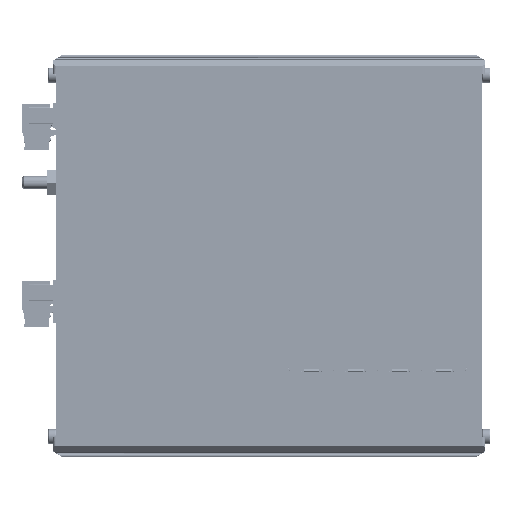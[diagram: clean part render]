
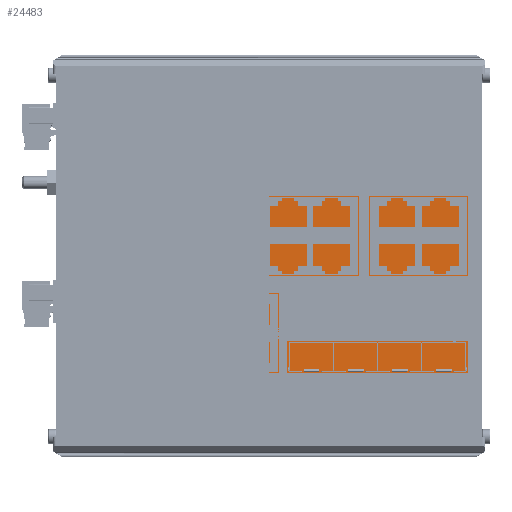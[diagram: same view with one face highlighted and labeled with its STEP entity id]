
A CAD part, top view. The second image highlights one B-rep face of the part: STEP entity #24483.
In plain terms, the highlighted planar face has unit normal (0, 0, 1).
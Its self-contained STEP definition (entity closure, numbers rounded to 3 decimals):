
#34=CARTESIAN_POINT('',(0.05,-58.6,-54.));
#35=VERTEX_POINT('',#34);
#42=CARTESIAN_POINT('',(0.05,58.6,-54.));
#43=VERTEX_POINT('',#42);
#44=CARTESIAN_POINT('',(0.05,-58.6,-54.));
#45=DIRECTION('',(0.,1.,0.));
#46=VECTOR('',#45,117.2);
#47=LINE('',#44,#46);
#48=EDGE_CURVE('',#35,#43,#47,.T.);
#114=CARTESIAN_POINT('',(60.,-23.25,-54.));
#115=VERTEX_POINT('',#114);
#139=CARTESIAN_POINT('',(61.75,-25.,-54.));
#140=VERTEX_POINT('',#139);
#141=CARTESIAN_POINT('',(60.,-25.,-54.));
#142=DIRECTION('',(0.,-0.,-1.));
#143=DIRECTION('',(1.,0.,0.));
#144=AXIS2_PLACEMENT_3D('',#141,#142,#143);
#145=CIRCLE('',#144,1.75);
#146=EDGE_CURVE('',#140,#115,#145,.T.);
#148=CARTESIAN_POINT('',(60.,-25.,-54.));
#149=DIRECTION('',(0.,-0.,-1.));
#150=DIRECTION('',(1.,0.,0.));
#151=AXIS2_PLACEMENT_3D('',#148,#149,#150);
#152=CIRCLE('',#151,1.75);
#153=EDGE_CURVE('',#115,#140,#152,.T.);
#165=CARTESIAN_POINT('',(60.,26.75,-54.));
#166=VERTEX_POINT('',#165);
#190=CARTESIAN_POINT('',(61.75,25.,-54.));
#191=VERTEX_POINT('',#190);
#192=CARTESIAN_POINT('',(60.,25.,-54.));
#193=DIRECTION('',(0.,-0.,-1.));
#194=DIRECTION('',(1.,0.,0.));
#195=AXIS2_PLACEMENT_3D('',#192,#193,#194);
#196=CIRCLE('',#195,1.75);
#197=EDGE_CURVE('',#191,#166,#196,.T.);
#199=CARTESIAN_POINT('',(60.,25.,-54.));
#200=DIRECTION('',(0.,-0.,-1.));
#201=DIRECTION('',(1.,0.,0.));
#202=AXIS2_PLACEMENT_3D('',#199,#200,#201);
#203=CIRCLE('',#202,1.75);
#204=EDGE_CURVE('',#166,#191,#203,.T.);
#216=CARTESIAN_POINT('',(5.,-23.25,-54.));
#217=VERTEX_POINT('',#216);
#241=CARTESIAN_POINT('',(6.75,-25.,-54.));
#242=VERTEX_POINT('',#241);
#243=CARTESIAN_POINT('',(5.,-25.,-54.));
#244=DIRECTION('',(0.,-0.,-1.));
#245=DIRECTION('',(1.,0.,0.));
#246=AXIS2_PLACEMENT_3D('',#243,#244,#245);
#247=CIRCLE('',#246,1.75);
#248=EDGE_CURVE('',#242,#217,#247,.T.);
#250=CARTESIAN_POINT('',(5.,-25.,-54.));
#251=DIRECTION('',(0.,-0.,-1.));
#252=DIRECTION('',(1.,0.,0.));
#253=AXIS2_PLACEMENT_3D('',#250,#251,#252);
#254=CIRCLE('',#253,1.75);
#255=EDGE_CURVE('',#217,#242,#254,.T.);
#267=CARTESIAN_POINT('',(5.,26.75,-54.));
#268=VERTEX_POINT('',#267);
#292=CARTESIAN_POINT('',(6.75,25.,-54.));
#293=VERTEX_POINT('',#292);
#294=CARTESIAN_POINT('',(5.,25.,-54.));
#295=DIRECTION('',(0.,-0.,-1.));
#296=DIRECTION('',(1.,0.,0.));
#297=AXIS2_PLACEMENT_3D('',#294,#295,#296);
#298=CIRCLE('',#297,1.75);
#299=EDGE_CURVE('',#293,#268,#298,.T.);
#301=CARTESIAN_POINT('',(5.,25.,-54.));
#302=DIRECTION('',(0.,-0.,-1.));
#303=DIRECTION('',(1.,0.,0.));
#304=AXIS2_PLACEMENT_3D('',#301,#302,#303);
#305=CIRCLE('',#304,1.75);
#306=EDGE_CURVE('',#268,#293,#305,.T.);
#6464=CARTESIAN_POINT('',(67.75,-58.6,-54.));
#6465=VERTEX_POINT('',#6464);
#6472=CARTESIAN_POINT('',(67.75,-58.6,-54.));
#6473=DIRECTION('',(-1.,0.,-0.));
#6474=VECTOR('',#6473,67.7);
#6475=LINE('',#6472,#6474);
#6476=EDGE_CURVE('',#6465,#35,#6475,.T.);
#6763=CARTESIAN_POINT('',(67.75,58.6,-54.));
#6764=VERTEX_POINT('',#6763);
#6765=CARTESIAN_POINT('',(0.05,58.6,-54.));
#6766=DIRECTION('',(1.,0.,0.));
#6767=VECTOR('',#6766,67.7);
#6768=LINE('',#6765,#6767);
#6769=EDGE_CURVE('',#43,#6764,#6768,.T.);
#6936=CARTESIAN_POINT('',(55.,-54.5,-54.));
#6937=VERTEX_POINT('',#6936);
#6947=CARTESIAN_POINT('',(53.5,-53.,-54.));
#6948=VERTEX_POINT('',#6947);
#6949=CARTESIAN_POINT('',(55.,-53.,-54.));
#6950=DIRECTION('',(0.,0.,-1.));
#6951=DIRECTION('',(-1.,0.,0.));
#6952=AXIS2_PLACEMENT_3D('',#6949,#6950,#6951);
#6953=CIRCLE('',#6952,1.5);
#6954=EDGE_CURVE('',#6948,#6937,#6953,.T.);
#6956=CARTESIAN_POINT('',(55.,-53.,-54.));
#6957=DIRECTION('',(0.,0.,-1.));
#6958=DIRECTION('',(-1.,0.,0.));
#6959=AXIS2_PLACEMENT_3D('',#6956,#6957,#6958);
#6960=CIRCLE('',#6959,1.5);
#6961=EDGE_CURVE('',#6937,#6948,#6960,.T.);
#6971=CARTESIAN_POINT('',(55.,51.5,-54.));
#6972=VERTEX_POINT('',#6971);
#6982=CARTESIAN_POINT('',(53.5,53.,-54.));
#6983=VERTEX_POINT('',#6982);
#6984=CARTESIAN_POINT('',(55.,53.,-54.));
#6985=DIRECTION('',(0.,0.,-1.));
#6986=DIRECTION('',(-1.,0.,0.));
#6987=AXIS2_PLACEMENT_3D('',#6984,#6985,#6986);
#6988=CIRCLE('',#6987,1.5);
#6989=EDGE_CURVE('',#6983,#6972,#6988,.T.);
#6991=CARTESIAN_POINT('',(55.,53.,-54.));
#6992=DIRECTION('',(0.,0.,-1.));
#6993=DIRECTION('',(-1.,0.,0.));
#6994=AXIS2_PLACEMENT_3D('',#6991,#6992,#6993);
#6995=CIRCLE('',#6994,1.5);
#6996=EDGE_CURVE('',#6972,#6983,#6995,.T.);
#7006=CARTESIAN_POINT('',(5.,51.5,-54.));
#7007=VERTEX_POINT('',#7006);
#7017=CARTESIAN_POINT('',(3.5,53.,-54.));
#7018=VERTEX_POINT('',#7017);
#7019=CARTESIAN_POINT('',(5.,53.,-54.));
#7020=DIRECTION('',(0.,0.,-1.));
#7021=DIRECTION('',(-1.,0.,0.));
#7022=AXIS2_PLACEMENT_3D('',#7019,#7020,#7021);
#7023=CIRCLE('',#7022,1.5);
#7024=EDGE_CURVE('',#7018,#7007,#7023,.T.);
#7026=CARTESIAN_POINT('',(5.,53.,-54.));
#7027=DIRECTION('',(0.,0.,-1.));
#7028=DIRECTION('',(-1.,0.,0.));
#7029=AXIS2_PLACEMENT_3D('',#7026,#7027,#7028);
#7030=CIRCLE('',#7029,1.5);
#7031=EDGE_CURVE('',#7007,#7018,#7030,.T.);
#7041=CARTESIAN_POINT('',(5.,-54.5,-54.));
#7042=VERTEX_POINT('',#7041);
#7052=CARTESIAN_POINT('',(3.5,-53.,-54.));
#7053=VERTEX_POINT('',#7052);
#7054=CARTESIAN_POINT('',(5.,-53.,-54.));
#7055=DIRECTION('',(0.,0.,-1.));
#7056=DIRECTION('',(-1.,0.,0.));
#7057=AXIS2_PLACEMENT_3D('',#7054,#7055,#7056);
#7058=CIRCLE('',#7057,1.5);
#7059=EDGE_CURVE('',#7053,#7042,#7058,.T.);
#7061=CARTESIAN_POINT('',(5.,-53.,-54.));
#7062=DIRECTION('',(0.,0.,-1.));
#7063=DIRECTION('',(-1.,0.,0.));
#7064=AXIS2_PLACEMENT_3D('',#7061,#7062,#7063);
#7065=CIRCLE('',#7064,1.5);
#7066=EDGE_CURVE('',#7042,#7053,#7065,.T.);
#24435=CARTESIAN_POINT('',(67.75,59.,-54.));
#24436=DIRECTION('',(-0.,0.,1.));
#24437=DIRECTION('',(1.,0.,0.));
#24438=AXIS2_PLACEMENT_3D('',#24435,#24436,#24437);
#24439=PLANE('',#24438);
#24440=ORIENTED_EDGE('',*,*,#6989,.T.);
#24441=ORIENTED_EDGE('',*,*,#6996,.T.);
#24442=EDGE_LOOP('',(#24440,#24441));
#24443=FACE_BOUND('',#24442,.T.);
#24444=ORIENTED_EDGE('',*,*,#7059,.T.);
#24445=ORIENTED_EDGE('',*,*,#7066,.T.);
#24446=EDGE_LOOP('',(#24444,#24445));
#24447=FACE_BOUND('',#24446,.T.);
#24448=ORIENTED_EDGE('',*,*,#197,.T.);
#24449=ORIENTED_EDGE('',*,*,#204,.T.);
#24450=EDGE_LOOP('',(#24448,#24449));
#24451=FACE_BOUND('',#24450,.T.);
#24452=ORIENTED_EDGE('',*,*,#299,.T.);
#24453=ORIENTED_EDGE('',*,*,#306,.T.);
#24454=EDGE_LOOP('',(#24452,#24453));
#24455=FACE_BOUND('',#24454,.T.);
#24456=CARTESIAN_POINT('',(67.75,58.6,-54.));
#24457=DIRECTION('',(0.,-1.,0.));
#24458=VECTOR('',#24457,117.2);
#24459=LINE('',#24456,#24458);
#24460=EDGE_CURVE('',#6764,#6465,#24459,.T.);
#24461=ORIENTED_EDGE('',*,*,#24460,.F.);
#24462=ORIENTED_EDGE('',*,*,#6769,.F.);
#24463=ORIENTED_EDGE('',*,*,#48,.F.);
#24464=ORIENTED_EDGE('',*,*,#6476,.F.);
#24465=EDGE_LOOP('',(#24461,#24462,#24463,#24464));
#24466=FACE_BOUND('',#24465,.T.);
#24467=ORIENTED_EDGE('',*,*,#248,.T.);
#24468=ORIENTED_EDGE('',*,*,#255,.T.);
#24469=EDGE_LOOP('',(#24467,#24468));
#24470=FACE_BOUND('',#24469,.T.);
#24471=ORIENTED_EDGE('',*,*,#146,.T.);
#24472=ORIENTED_EDGE('',*,*,#153,.T.);
#24473=EDGE_LOOP('',(#24471,#24472));
#24474=FACE_BOUND('',#24473,.T.);
#24475=ORIENTED_EDGE('',*,*,#7024,.T.);
#24476=ORIENTED_EDGE('',*,*,#7031,.T.);
#24477=EDGE_LOOP('',(#24475,#24476));
#24478=FACE_BOUND('',#24477,.T.);
#24479=ORIENTED_EDGE('',*,*,#6954,.T.);
#24480=ORIENTED_EDGE('',*,*,#6961,.T.);
#24481=EDGE_LOOP('',(#24479,#24480));
#24482=FACE_BOUND('',#24481,.T.);
#24483=ADVANCED_FACE('',(#24443,#24447,#24451,#24455,#24466,#24470,#24474,#24478,#24482),#24439,.T.);
